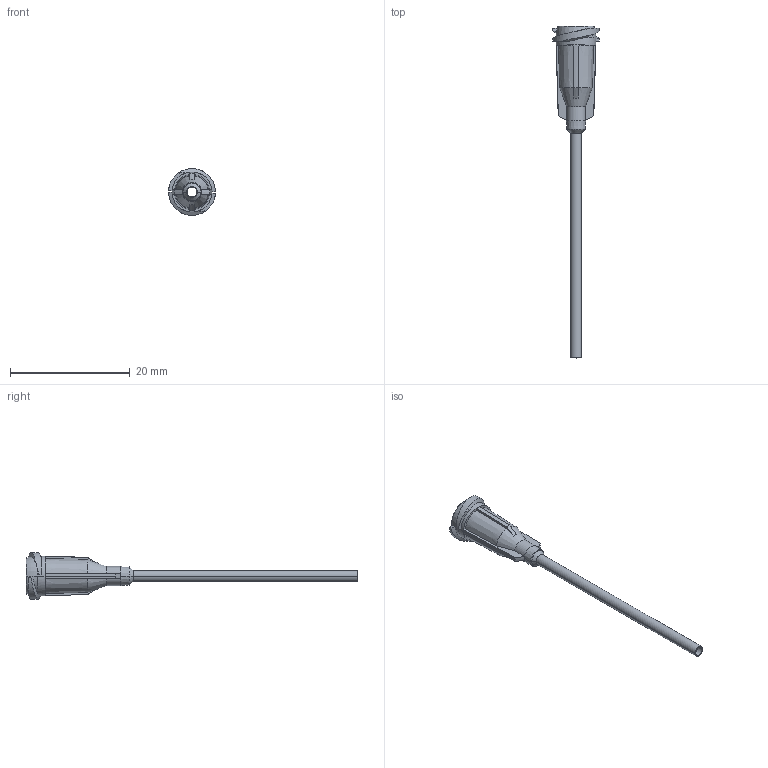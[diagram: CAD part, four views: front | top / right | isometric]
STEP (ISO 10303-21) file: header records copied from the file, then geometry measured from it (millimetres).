
FILE_DESCRIPTION (( 'STEP AP214' ), '1' );
FILE_NAME ('NORDSONEFD-7018034 TIP 14GA GP 060 X 15 OL.STEP', '2019-07-23T14:26:08', ( '' ), ( '' ), 'SwSTEP 2.0', 'SolidWorks 2019', '' );
FILE_SCHEMA (( 'AUTOMOTIVE_DESIGN' ));
Length unit declared in the file: inch
Products named in the file (1): NORDSONEFD-7018034 TIP 14GA GP 060 X 15 OL
Bounding box: 7.82 x 55.47 x 7.82 mm (x, y, z)
Volume: 279 mm3; surface area: 976.1 mm2
Topology: 1 solids, 1 shells, 98 faces, 228 edges, 136 vertices
Faces by surface type: plane 26, torus 22, cone 22, cylinder 16, bspline 12
Entity records: 3320 total; most frequent: CARTESIAN_POINT 997, DIRECTION 460, ORIENTED_EDGE 456, EDGE_CURVE 228, AXIS2_PLACEMENT_3D 201, VERTEX_POINT 136, CIRCLE 114, EDGE_LOOP 104
